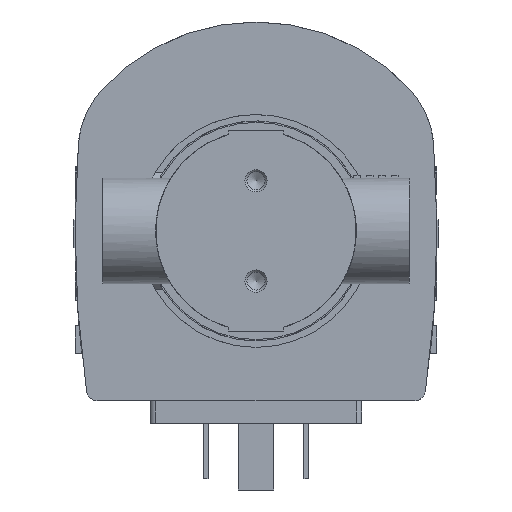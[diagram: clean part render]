
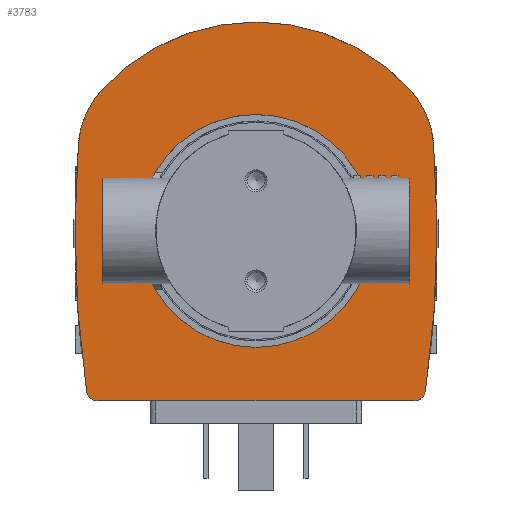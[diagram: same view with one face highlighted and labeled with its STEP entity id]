
A CAD part, front view. The second image highlights one B-rep face of the part: STEP entity #3783.
In plain terms, the highlighted planar face has unit normal (0, -1, 0).
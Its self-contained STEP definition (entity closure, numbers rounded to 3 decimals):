
#128=PLANE('',#4069);
#311=LINE('',#5405,#534);
#534=VECTOR('',#4557,1000.);
#1062=ORIENTED_EDGE('',*,*,#1622,.F.);
#1063=ORIENTED_EDGE('',*,*,#1606,.F.);
#1064=ORIENTED_EDGE('',*,*,#1621,.F.);
#1065=ORIENTED_EDGE('',*,*,#1626,.F.);
#1066=ORIENTED_EDGE('',*,*,#1616,.F.);
#1067=ORIENTED_EDGE('',*,*,#1587,.F.);
#1068=ORIENTED_EDGE('',*,*,#1623,.F.);
#1069=ORIENTED_EDGE('',*,*,#1564,.F.);
#1564=EDGE_CURVE('',#1888,#1889,#311,.T.);
#1587=EDGE_CURVE('',#1908,#1909,#2066,.T.);
#1606=EDGE_CURVE('',#1926,#1927,#2071,.T.);
#1616=EDGE_CURVE('',#1909,#1936,#2074,.T.);
#1621=EDGE_CURVE('',#1939,#1926,#2075,.T.);
#1622=EDGE_CURVE('',#1927,#1888,#2076,.T.);
#1623=EDGE_CURVE('',#1889,#1908,#2077,.T.);
#1626=EDGE_CURVE('',#1936,#1939,#2078,.T.);
#1888=VERTEX_POINT('',#5404);
#1889=VERTEX_POINT('',#5406);
#1908=VERTEX_POINT('',#5450);
#1909=VERTEX_POINT('',#5452);
#1926=VERTEX_POINT('',#5488);
#1927=VERTEX_POINT('',#5490);
#1936=VERTEX_POINT('',#5510);
#1939=VERTEX_POINT('',#5518);
#2066=CIRCLE('',#4039,200.1);
#2071=CIRCLE('',#4049,200.1);
#2074=CIRCLE('',#4055,16.);
#2075=CIRCLE('',#4059,16.);
#2076=CIRCLE('',#4061,2.);
#2077=CIRCLE('',#4063,2.);
#2078=CIRCLE('',#4068,37.5);
#2216=EDGE_LOOP('',(#1062,#1063,#1064,#1065,#1066,#1067,#1068,#1069));
#2430=FACE_BOUND('',#2216,.T.);
#3783=ADVANCED_FACE('',(#2430),#128,.F.);
#4039=AXIS2_PLACEMENT_3D('',#5451,#4598,#4599);
#4049=AXIS2_PLACEMENT_3D('',#5489,#4628,#4629);
#4055=AXIS2_PLACEMENT_3D('',#5509,#4645,#4646);
#4059=AXIS2_PLACEMENT_3D('',#5519,#4655,#4656);
#4061=AXIS2_PLACEMENT_3D('',#5521,#4659,#4660);
#4063=AXIS2_PLACEMENT_3D('',#5523,#4663,#4664);
#4068=AXIS2_PLACEMENT_3D('',#5528,#4673,#4674);
#4069=AXIS2_PLACEMENT_3D('',#5529,#4675,#4676);
#4557=DIRECTION('',(0.,0.,1.));
#4598=DIRECTION('',(0.,1.,0.));
#4599=DIRECTION('',(1.,0.,0.));
#4628=DIRECTION('',(0.,1.,0.));
#4629=DIRECTION('',(1.,0.,0.));
#4645=DIRECTION('',(0.,1.,0.));
#4646=DIRECTION('',(1.,0.,0.));
#4655=DIRECTION('',(0.,1.,0.));
#4656=DIRECTION('',(1.,0.,0.));
#4659=DIRECTION('',(0.,1.,0.));
#4660=DIRECTION('',(1.,0.,0.));
#4663=DIRECTION('',(0.,1.,0.));
#4664=DIRECTION('',(1.,0.,0.));
#4673=DIRECTION('',(0.,1.,0.));
#4674=DIRECTION('',(1.,0.,0.));
#4675=DIRECTION('',(0.,1.,0.));
#4676=DIRECTION('',(0.,0.,1.));
#5404=CARTESIAN_POINT('',(-30.5,-38.8,-28.424));
#5405=CARTESIAN_POINT('',(-30.5,-38.8,-28.424));
#5406=CARTESIAN_POINT('',(-30.5,-38.8,28.424));
#5450=CARTESIAN_POINT('',(-28.788,-38.8,30.403));
#5451=CARTESIAN_POINT('',(0.,-38.8,-167.615));
#5452=CARTESIAN_POINT('',(15.71,-38.8,31.867));
#5488=CARTESIAN_POINT('',(15.71,-38.8,-31.867));
#5489=CARTESIAN_POINT('',(0.,-38.8,167.615));
#5490=CARTESIAN_POINT('',(-28.788,-38.8,-30.403));
#5509=CARTESIAN_POINT('',(14.454,-38.8,15.917));
#5510=CARTESIAN_POINT('',(25.21,-38.8,27.762));
#5518=CARTESIAN_POINT('',(25.21,-38.8,-27.762));
#5519=CARTESIAN_POINT('',(14.454,-38.8,-15.917));
#5521=CARTESIAN_POINT('',(-28.5,-38.8,-28.424));
#5523=CARTESIAN_POINT('',(-28.5,-38.8,28.424));
#5528=CARTESIAN_POINT('',(0.,-38.8,0.));
#5529=CARTESIAN_POINT('',(-28.5,-38.8,-28.424));
